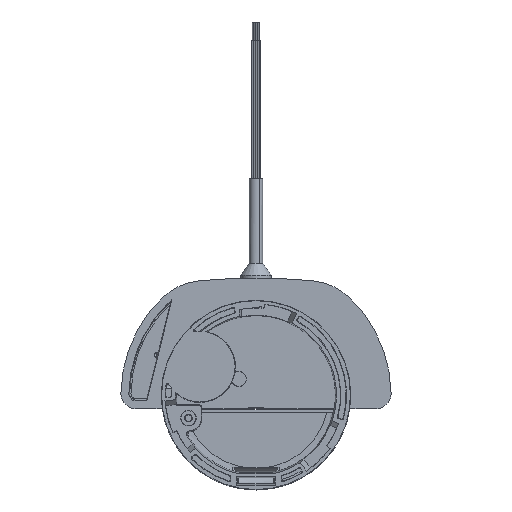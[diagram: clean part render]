
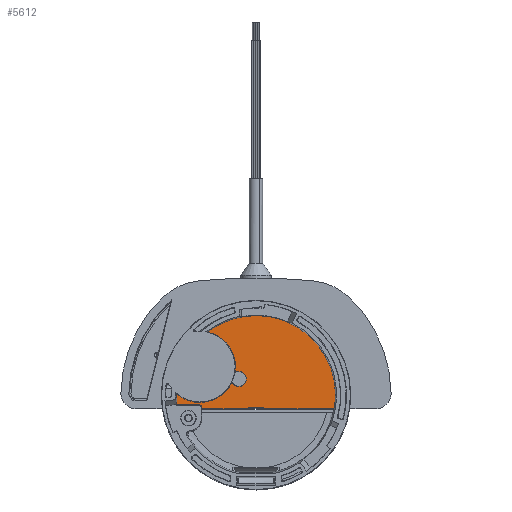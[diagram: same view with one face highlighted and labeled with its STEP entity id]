
A CAD part, front view. The second image highlights one B-rep face of the part: STEP entity #5612.
In plain terms, the highlighted planar face has unit normal (0, -1, 0).
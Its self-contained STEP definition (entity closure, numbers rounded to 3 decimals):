
#32 = VECTOR ( 'NONE', #3564, 1000. ) ;
#66 = LINE ( 'NONE', #2450, #3552 ) ;
#100 = EDGE_CURVE ( 'NONE', #8922, #2683, #8972, .T. ) ;
#151 = CIRCLE ( 'NONE', #7303, 25.909 ) ;
#166 = DIRECTION ( 'NONE',  ( -1., 0., 0. ) ) ;
#334 = ORIENTED_EDGE ( 'NONE', *, *, #8217, .F. ) ;
#355 = ORIENTED_EDGE ( 'NONE', *, *, #7050, .F. ) ;
#517 = ORIENTED_EDGE ( 'NONE', *, *, #3461, .T. ) ;
#549 = DIRECTION ( 'NONE',  ( 0., 0., 1. ) ) ;
#603 = CIRCLE ( 'NONE', #7750, 11.613 ) ;
#644 = VERTEX_POINT ( 'NONE', #4182 ) ;
#657 = CARTESIAN_POINT ( 'NONE',  ( -18.3, 6.5, 9.25 ) ) ;
#725 = DIRECTION ( 'NONE',  ( 0., -1., 0. ) ) ;
#838 = VERTEX_POINT ( 'NONE', #5458 ) ;
#916 = DIRECTION ( 'NONE',  ( 0., 1., 0. ) ) ;
#1026 = EDGE_CURVE ( 'NONE', #2683, #1528, #7500, .T. ) ;
#1062 = LINE ( 'NONE', #3518, #8160 ) ;
#1073 = VECTOR ( 'NONE', #7881, 1000. ) ;
#1104 = CARTESIAN_POINT ( 'NONE',  ( -15.742, 6.5, 20.578 ) ) ;
#1216 = CARTESIAN_POINT ( 'NONE',  ( -17.68, 6.5, -4.075 ) ) ;
#1366 = ORIENTED_EDGE ( 'NONE', *, *, #3148, .T. ) ;
#1466 = LINE ( 'NONE', #2374, #9772 ) ;
#1528 = VERTEX_POINT ( 'NONE', #1104 ) ;
#1646 = CARTESIAN_POINT ( 'NONE',  ( -18.3, 6.5, -2.363 ) ) ;
#1684 = CARTESIAN_POINT ( 'NONE',  ( -25.905, 6.5, 0.473 ) ) ;
#1758 = FACE_OUTER_BOUND ( 'NONE', #3235, .T. ) ;
#1899 = VERTEX_POINT ( 'NONE', #4008 ) ;
#1935 = ORIENTED_EDGE ( 'NONE', *, *, #1026, .F. ) ;
#2033 = VERTEX_POINT ( 'NONE', #8246 ) ;
#2039 = CARTESIAN_POINT ( 'NONE',  ( 0., 6.5, -4.5 ) ) ;
#2149 = ORIENTED_EDGE ( 'NONE', *, *, #4159, .T. ) ;
#2374 = CARTESIAN_POINT ( 'NONE',  ( -2.5, 6.5, -3.9 ) ) ;
#2450 = CARTESIAN_POINT ( 'NONE',  ( -2.5, 6.5, -3.9 ) ) ;
#2531 = AXIS2_PLACEMENT_3D ( 'NONE', #7851, #4092, #7816 ) ;
#2544 = ORIENTED_EDGE ( 'NONE', *, *, #7148, .T. ) ;
#2683 = VERTEX_POINT ( 'NONE', #9824 ) ;
#2758 = ORIENTED_EDGE ( 'NONE', *, *, #8371, .F. ) ;
#2834 = VERTEX_POINT ( 'NONE', #1646 ) ;
#2835 = CARTESIAN_POINT ( 'NONE',  ( -5.6, 6.5, 5.25 ) ) ;
#2856 = VERTEX_POINT ( 'NONE', #1684 ) ;
#3108 = LINE ( 'NONE', #3193, #1073 ) ;
#3148 = EDGE_CURVE ( 'NONE', #838, #5841, #3108, .T. ) ;
#3173 = CARTESIAN_POINT ( 'NONE',  ( -22., 6.5, -3.18 ) ) ;
#3193 = CARTESIAN_POINT ( 'NONE',  ( 2.5, 6.5, 0. ) ) ;
#3235 = EDGE_LOOP ( 'NONE', ( #4307, #2758, #7991, #1366, #9839, #2149, #1935, #9661, #4674, #355, #7292, #334, #2544, #9918, #6357, #517 ) ) ;
#3283 = AXIS2_PLACEMENT_3D ( 'NONE', #8533, #9271, #6960 ) ;
#3331 = DIRECTION ( 'NONE',  ( 0., -1., 0. ) ) ;
#3442 = CARTESIAN_POINT ( 'NONE',  ( 0., 6.5, -4.5 ) ) ;
#3461 = EDGE_CURVE ( 'NONE', #9171, #2033, #1062, .T. ) ;
#3518 = CARTESIAN_POINT ( 'NONE',  ( -17.68, 6.5, -7.5 ) ) ;
#3552 = VECTOR ( 'NONE', #166, 1000. ) ;
#3564 = DIRECTION ( 'NONE',  ( -1., 0., 0. ) ) ;
#3637 = DIRECTION ( 'NONE',  ( 0., 0., 1. ) ) ;
#3641 = CARTESIAN_POINT ( 'NONE',  ( 2.5, 6.5, -4.5 ) ) ;
#3801 = VERTEX_POINT ( 'NONE', #5550 ) ;
#3935 = CARTESIAN_POINT ( 'NONE',  ( -5.6, 6.5, 5.25 ) ) ;
#3957 = AXIS2_PLACEMENT_3D ( 'NONE', #5554, #916, #6347 ) ;
#3987 = CARTESIAN_POINT ( 'NONE',  ( 25.516, 6.5, -4.5 ) ) ;
#4001 = VECTOR ( 'NONE', #8088, 1000. ) ;
#4008 = CARTESIAN_POINT ( 'NONE',  ( -18.575, 6.5, -3.18 ) ) ;
#4025 = CIRCLE ( 'NONE', #7842, 11.613 ) ;
#4049 = DIRECTION ( 'NONE',  ( 0., 0., 1. ) ) ;
#4092 = DIRECTION ( 'NONE',  ( 0., -1., 0. ) ) ;
#4134 = AXIS2_PLACEMENT_3D ( 'NONE', #6443, #7212, #4049 ) ;
#4159 = EDGE_CURVE ( 'NONE', #8556, #1528, #4524, .T. ) ;
#4182 = CARTESIAN_POINT ( 'NONE',  ( -2.5, 6.5, -4.5 ) ) ;
#4307 = ORIENTED_EDGE ( 'NONE', *, *, #7209, .F. ) ;
#4390 = DIRECTION ( 'NONE',  ( 0., -1., 0. ) ) ;
#4467 = LINE ( 'NONE', #3173, #9897 ) ;
#4524 = CIRCLE ( 'NONE', #2531, 25.909 ) ;
#4674 = ORIENTED_EDGE ( 'NONE', *, *, #9892, .F. ) ;
#4753 = VERTEX_POINT ( 'NONE', #5273 ) ;
#4861 = LINE ( 'NONE', #3442, #4001 ) ;
#4967 = EDGE_CURVE ( 'NONE', #1899, #9171, #9948, .T. ) ;
#5024 = DIRECTION ( 'NONE',  ( 0., 0., -1. ) ) ;
#5076 = VERTEX_POINT ( 'NONE', #5419 ) ;
#5227 = CARTESIAN_POINT ( 'NONE',  ( -18.3, 6.5, 9.25 ) ) ;
#5273 = CARTESIAN_POINT ( 'NONE',  ( -7.831, 6.5, 4.223 ) ) ;
#5419 = CARTESIAN_POINT ( 'NONE',  ( -2.5, 6.5, -3.9 ) ) ;
#5458 = CARTESIAN_POINT ( 'NONE',  ( 2.5, 6.5, -3.9 ) ) ;
#5542 = DIRECTION ( 'NONE',  ( 0., 0., 1. ) ) ;
#5550 = CARTESIAN_POINT ( 'NONE',  ( -5.6, 6.5, 2.794 ) ) ;
#5554 = CARTESIAN_POINT ( 'NONE',  ( -18.575, 6.5, -4.075 ) ) ;
#5612 = ADVANCED_FACE ( 'NONE', ( #1758 ), #8997, .F. ) ;
#5622 = DIRECTION ( 'NONE',  ( 0., -1., 0. ) ) ;
#5841 = VERTEX_POINT ( 'NONE', #3641 ) ;
#5938 = EDGE_CURVE ( 'NONE', #838, #5076, #66, .T. ) ;
#5990 = DIRECTION ( 'NONE',  ( 0., 1., 0. ) ) ;
#6057 = EDGE_CURVE ( 'NONE', #2834, #4753, #4025, .T. ) ;
#6066 = DIRECTION ( 'NONE',  ( 0., 0., 1. ) ) ;
#6082 = AXIS2_PLACEMENT_3D ( 'NONE', #3935, #5622, #5542 ) ;
#6164 = AXIS2_PLACEMENT_3D ( 'NONE', #9778, #5990, #549 ) ;
#6325 = DIRECTION ( 'NONE',  ( 0., 0., -1. ) ) ;
#6347 = DIRECTION ( 'NONE',  ( 0., 0., 1. ) ) ;
#6357 = ORIENTED_EDGE ( 'NONE', *, *, #4967, .T. ) ;
#6443 = CARTESIAN_POINT ( 'NONE',  ( -18.3, 6.5, 9.25 ) ) ;
#6657 = LINE ( 'NONE', #2039, #32 ) ;
#6960 = DIRECTION ( 'NONE',  ( 0., 0., 1. ) ) ;
#7050 = EDGE_CURVE ( 'NONE', #4753, #3801, #9906, .T. ) ;
#7105 = DIRECTION ( 'NONE',  ( 1., 0., 0. ) ) ;
#7148 = EDGE_CURVE ( 'NONE', #2856, #9952, #151, .T. ) ;
#7209 = EDGE_CURVE ( 'NONE', #644, #2033, #6657, .T. ) ;
#7212 = DIRECTION ( 'NONE',  ( 0., -1., 0. ) ) ;
#7292 = ORIENTED_EDGE ( 'NONE', *, *, #6057, .F. ) ;
#7303 = AXIS2_PLACEMENT_3D ( 'NONE', #7953, #3331, #9496 ) ;
#7415 = CARTESIAN_POINT ( 'NONE',  ( -5.6, 6.5, 7.706 ) ) ;
#7445 = AXIS2_PLACEMENT_3D ( 'NONE', #2835, #4390, #8199 ) ;
#7464 = EDGE_CURVE ( 'NONE', #9952, #1899, #4467, .T. ) ;
#7500 = CIRCLE ( 'NONE', #4134, 11.613 ) ;
#7579 = EDGE_CURVE ( 'NONE', #8556, #5841, #4861, .T. ) ;
#7692 = CIRCLE ( 'NONE', #7445, 2.456 ) ;
#7750 = AXIS2_PLACEMENT_3D ( 'NONE', #657, #725, #6066 ) ;
#7816 = DIRECTION ( 'NONE',  ( 0., 0., 1. ) ) ;
#7842 = AXIS2_PLACEMENT_3D ( 'NONE', #5227, #8252, #3637 ) ;
#7851 = CARTESIAN_POINT ( 'NONE',  ( 0., 6.5, 0. ) ) ;
#7881 = DIRECTION ( 'NONE',  ( 0., 0., -1. ) ) ;
#7953 = CARTESIAN_POINT ( 'NONE',  ( 0., 6.5, 0. ) ) ;
#7991 = ORIENTED_EDGE ( 'NONE', *, *, #5938, .F. ) ;
#8088 = DIRECTION ( 'NONE',  ( -1., 0., 0. ) ) ;
#8129 = CARTESIAN_POINT ( 'NONE',  ( -25.713, 6.5, -3.18 ) ) ;
#8160 = VECTOR ( 'NONE', #5024, 1000. ) ;
#8199 = DIRECTION ( 'NONE',  ( 0., 0., 1. ) ) ;
#8217 = EDGE_CURVE ( 'NONE', #2856, #2834, #603, .T. ) ;
#8246 = CARTESIAN_POINT ( 'NONE',  ( -17.68, 6.5, -4.5 ) ) ;
#8252 = DIRECTION ( 'NONE',  ( 0., -1., 0. ) ) ;
#8371 = EDGE_CURVE ( 'NONE', #5076, #644, #1466, .T. ) ;
#8533 = CARTESIAN_POINT ( 'NONE',  ( -5.6, 6.5, 5.25 ) ) ;
#8556 = VERTEX_POINT ( 'NONE', #3987 ) ;
#8922 = VERTEX_POINT ( 'NONE', #7415 ) ;
#8972 = CIRCLE ( 'NONE', #3283, 2.456 ) ;
#8997 = PLANE ( 'NONE',  #6164 ) ;
#9171 = VERTEX_POINT ( 'NONE', #1216 ) ;
#9271 = DIRECTION ( 'NONE',  ( 0., -1., 0. ) ) ;
#9496 = DIRECTION ( 'NONE',  ( 0., 0., 1. ) ) ;
#9661 = ORIENTED_EDGE ( 'NONE', *, *, #100, .F. ) ;
#9772 = VECTOR ( 'NONE', #6325, 1000. ) ;
#9778 = CARTESIAN_POINT ( 'NONE',  ( 0., 6.5, 0. ) ) ;
#9824 = CARTESIAN_POINT ( 'NONE',  ( -6.84, 6.5, 7.37 ) ) ;
#9839 = ORIENTED_EDGE ( 'NONE', *, *, #7579, .F. ) ;
#9892 = EDGE_CURVE ( 'NONE', #3801, #8922, #7692, .T. ) ;
#9897 = VECTOR ( 'NONE', #7105, 1000. ) ;
#9906 = CIRCLE ( 'NONE', #6082, 2.456 ) ;
#9918 = ORIENTED_EDGE ( 'NONE', *, *, #7464, .T. ) ;
#9948 = CIRCLE ( 'NONE', #3957, 0.895 ) ;
#9952 = VERTEX_POINT ( 'NONE', #8129 ) ;
